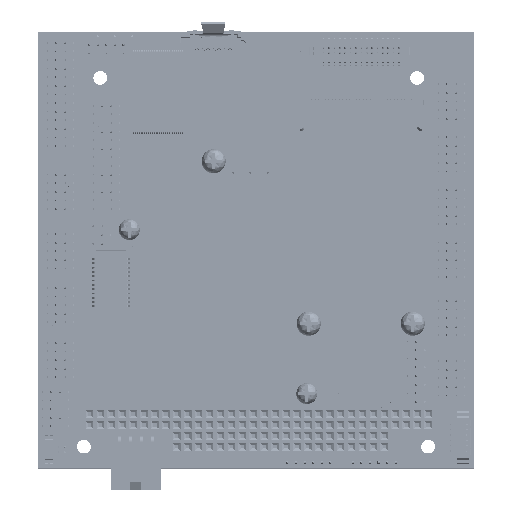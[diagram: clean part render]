
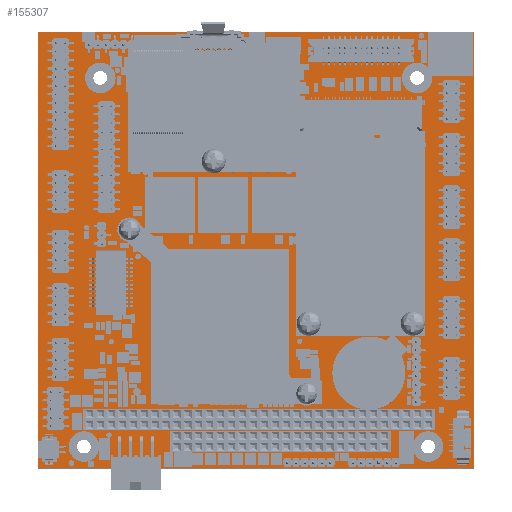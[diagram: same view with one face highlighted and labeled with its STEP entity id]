
A CAD part, top view. The second image highlights one B-rep face of the part: STEP entity #155307.
In plain terms, the highlighted planar face has unit normal (0, 0, 1).
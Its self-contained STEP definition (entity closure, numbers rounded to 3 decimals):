
#154868=CARTESIAN_POINT('',(10.795,5.08,2.217));
#154869=DIRECTION('',(0.,0.,1.));
#154870=DIRECTION('',(1.,0.,0.));
#154871=AXIS2_PLACEMENT_3D('',#154868,#154869,#154870);
#154873=CARTESIAN_POINT('',(10.795,5.08,2.217));
#154874=DIRECTION('',(0.,0.,1.));
#154875=DIRECTION('',(-1.,0.,0.));
#154876=AXIS2_PLACEMENT_3D('',#154873,#154874,#154875);
#154878=CARTESIAN_POINT('',(90.805,5.08,2.217));
#154879=DIRECTION('',(0.,0.,1.));
#154880=DIRECTION('',(1.,0.,0.));
#154881=AXIS2_PLACEMENT_3D('',#154878,#154879,#154880);
#154883=CARTESIAN_POINT('',(90.805,5.08,2.217));
#154884=DIRECTION('',(0.,0.,1.));
#154885=DIRECTION('',(-1.,0.,0.));
#154886=AXIS2_PLACEMENT_3D('',#154883,#154884,#154885);
#154888=CARTESIAN_POINT('',(14.605,90.805,2.217));
#154889=DIRECTION('',(0.,0.,1.));
#154890=DIRECTION('',(1.,0.,0.));
#154891=AXIS2_PLACEMENT_3D('',#154888,#154889,#154890);
#154893=CARTESIAN_POINT('',(14.605,90.805,2.217));
#154894=DIRECTION('',(0.,0.,1.));
#154895=DIRECTION('',(-1.,0.,0.));
#154896=AXIS2_PLACEMENT_3D('',#154893,#154894,#154895);
#154898=CARTESIAN_POINT('',(88.265,90.805,2.217));
#154899=DIRECTION('',(0.,0.,1.));
#154900=DIRECTION('',(1.,0.,0.));
#154901=AXIS2_PLACEMENT_3D('',#154898,#154899,#154900);
#154903=CARTESIAN_POINT('',(88.265,90.805,2.217));
#154904=DIRECTION('',(0.,0.,1.));
#154905=DIRECTION('',(-1.,0.,0.));
#154906=AXIS2_PLACEMENT_3D('',#154903,#154904,#154905);
#154908=CARTESIAN_POINT('',(21.34,55.5,2.217));
#154909=DIRECTION('',(0.,0.,1.));
#154910=DIRECTION('',(1.,0.,0.));
#154911=AXIS2_PLACEMENT_3D('',#154908,#154909,#154910);
#154913=CARTESIAN_POINT('',(21.34,55.5,2.217));
#154914=DIRECTION('',(0.,0.,1.));
#154915=DIRECTION('',(-1.,0.,0.));
#154916=AXIS2_PLACEMENT_3D('',#154913,#154914,#154915);
#154918=CARTESIAN_POINT('',(62.6,17.4,2.217));
#154919=DIRECTION('',(0.,0.,1.));
#154920=DIRECTION('',(1.,0.,0.));
#154921=AXIS2_PLACEMENT_3D('',#154918,#154919,#154920);
#154923=CARTESIAN_POINT('',(62.6,17.4,2.217));
#154924=DIRECTION('',(0.,0.,1.));
#154925=DIRECTION('',(-1.,0.,0.));
#154926=AXIS2_PLACEMENT_3D('',#154923,#154924,#154925);
#154928=CARTESIAN_POINT('',(40.94,71.41,2.217));
#154929=DIRECTION('',(0.,0.,1.));
#154930=DIRECTION('',(1.,0.,0.));
#154931=AXIS2_PLACEMENT_3D('',#154928,#154929,#154930);
#154933=CARTESIAN_POINT('',(40.94,71.41,2.217));
#154934=DIRECTION('',(0.,0.,1.));
#154935=DIRECTION('',(-1.,0.,0.));
#154936=AXIS2_PLACEMENT_3D('',#154933,#154934,#154935);
#154938=CARTESIAN_POINT('',(63.05,33.66,2.217));
#154939=DIRECTION('',(0.,0.,1.));
#154940=DIRECTION('',(1.,0.,0.));
#154941=AXIS2_PLACEMENT_3D('',#154938,#154939,#154940);
#154943=CARTESIAN_POINT('',(63.05,33.66,2.217));
#154944=DIRECTION('',(0.,0.,1.));
#154945=DIRECTION('',(-1.,0.,0.));
#154946=AXIS2_PLACEMENT_3D('',#154943,#154944,#154945);
#154948=CARTESIAN_POINT('',(87.25,33.66,2.217));
#154949=DIRECTION('',(0.,0.,1.));
#154950=DIRECTION('',(1.,0.,0.));
#154951=AXIS2_PLACEMENT_3D('',#154948,#154949,#154950);
#154953=CARTESIAN_POINT('',(87.25,33.66,2.217));
#154954=DIRECTION('',(0.,0.,1.));
#154955=DIRECTION('',(-1.,0.,0.));
#154956=AXIS2_PLACEMENT_3D('',#154953,#154954,#154955);
#154958=DIRECTION('',(1.,0.,0.));
#154959=VECTOR('',#154958,101.6);
#154960=CARTESIAN_POINT('',(0.,101.6,2.217));
#154961=LINE('',#154960,#154959);
#154962=DIRECTION('',(1.,0.,0.));
#154963=VECTOR('',#154962,101.6);
#154964=CARTESIAN_POINT('',(0.,0.,2.217));
#154965=LINE('',#154964,#154963);
#155038=DIRECTION('',(0.,-1.,0.));
#155039=VECTOR('',#155038,101.6);
#155040=CARTESIAN_POINT('',(101.6,101.6,2.217));
#155041=LINE('',#155040,#155039);
#155046=DIRECTION('',(0.,1.,0.));
#155047=VECTOR('',#155046,101.6);
#155048=CARTESIAN_POINT('',(0.,0.,2.217));
#155049=LINE('',#155048,#155047);
#155070=CARTESIAN_POINT('',(12.395,5.08,2.217));
#155071=CARTESIAN_POINT('',(9.195,5.08,2.217));
#155072=VERTEX_POINT('',#155070);
#155073=VERTEX_POINT('',#155071);
#155074=CARTESIAN_POINT('',(92.405,5.08,2.217));
#155075=CARTESIAN_POINT('',(89.205,5.08,2.217));
#155076=VERTEX_POINT('',#155074);
#155077=VERTEX_POINT('',#155075);
#155078=CARTESIAN_POINT('',(16.205,90.805,2.217));
#155079=CARTESIAN_POINT('',(13.005,90.805,2.217));
#155080=VERTEX_POINT('',#155078);
#155081=VERTEX_POINT('',#155079);
#155082=CARTESIAN_POINT('',(89.865,90.805,2.217));
#155083=CARTESIAN_POINT('',(86.665,90.805,2.217));
#155084=VERTEX_POINT('',#155082);
#155085=VERTEX_POINT('',#155083);
#155094=CARTESIAN_POINT('',(22.94,55.5,2.217));
#155095=CARTESIAN_POINT('',(19.74,55.5,2.217));
#155096=VERTEX_POINT('',#155094);
#155097=VERTEX_POINT('',#155095);
#155098=CARTESIAN_POINT('',(64.2,17.4,2.217));
#155099=CARTESIAN_POINT('',(61.,17.4,2.217));
#155100=VERTEX_POINT('',#155098);
#155101=VERTEX_POINT('',#155099);
#155114=CARTESIAN_POINT('',(42.69,71.41,2.217));
#155115=CARTESIAN_POINT('',(39.19,71.41,2.217));
#155116=VERTEX_POINT('',#155114);
#155117=VERTEX_POINT('',#155115);
#155118=CARTESIAN_POINT('',(64.8,33.66,2.217));
#155119=CARTESIAN_POINT('',(61.3,33.66,2.217));
#155120=VERTEX_POINT('',#155118);
#155121=VERTEX_POINT('',#155119);
#155122=CARTESIAN_POINT('',(89.,33.66,2.217));
#155123=CARTESIAN_POINT('',(85.5,33.66,2.217));
#155124=VERTEX_POINT('',#155122);
#155125=VERTEX_POINT('',#155123);
#155134=CARTESIAN_POINT('',(101.6,101.6,2.217));
#155135=VERTEX_POINT('',#155134);
#155136=CARTESIAN_POINT('',(101.6,0.,2.217));
#155137=VERTEX_POINT('',#155136);
#155138=CARTESIAN_POINT('',(0.,101.6,2.217));
#155139=VERTEX_POINT('',#155138);
#155140=CARTESIAN_POINT('',(0.,0.,2.217));
#155141=VERTEX_POINT('',#155140);
#155240=CARTESIAN_POINT('',(2.,-8.,2.217));
#155241=DIRECTION('',(0.,0.,1.));
#155242=DIRECTION('',(1.,0.,0.));
#155243=AXIS2_PLACEMENT_3D('',#155240,#155241,#155242);
#155244=PLANE('',#155243);
#155246=ORIENTED_EDGE('',*,*,#155245,.T.);
#155248=ORIENTED_EDGE('',*,*,#155247,.T.);
#155250=ORIENTED_EDGE('',*,*,#155249,.F.);
#155252=ORIENTED_EDGE('',*,*,#155251,.T.);
#155253=EDGE_LOOP('',(#155246,#155248,#155250,#155252));
#155254=FACE_OUTER_BOUND('',#155253,.F.);
#155256=ORIENTED_EDGE('',*,*,#155255,.T.);
#155258=ORIENTED_EDGE('',*,*,#155257,.T.);
#155259=EDGE_LOOP('',(#155256,#155258));
#155260=FACE_BOUND('',#155259,.F.);
#155262=ORIENTED_EDGE('',*,*,#155261,.T.);
#155264=ORIENTED_EDGE('',*,*,#155263,.T.);
#155265=EDGE_LOOP('',(#155262,#155264));
#155266=FACE_BOUND('',#155265,.F.);
#155268=ORIENTED_EDGE('',*,*,#155267,.T.);
#155270=ORIENTED_EDGE('',*,*,#155269,.T.);
#155271=EDGE_LOOP('',(#155268,#155270));
#155272=FACE_BOUND('',#155271,.F.);
#155274=ORIENTED_EDGE('',*,*,#155273,.T.);
#155276=ORIENTED_EDGE('',*,*,#155275,.T.);
#155277=EDGE_LOOP('',(#155274,#155276));
#155278=FACE_BOUND('',#155277,.F.);
#155280=ORIENTED_EDGE('',*,*,#155279,.T.);
#155282=ORIENTED_EDGE('',*,*,#155281,.T.);
#155283=EDGE_LOOP('',(#155280,#155282));
#155284=FACE_BOUND('',#155283,.F.);
#155286=ORIENTED_EDGE('',*,*,#155285,.T.);
#155288=ORIENTED_EDGE('',*,*,#155287,.T.);
#155289=EDGE_LOOP('',(#155286,#155288));
#155290=FACE_BOUND('',#155289,.F.);
#155292=ORIENTED_EDGE('',*,*,#155291,.T.);
#155294=ORIENTED_EDGE('',*,*,#155293,.T.);
#155295=EDGE_LOOP('',(#155292,#155294));
#155296=FACE_BOUND('',#155295,.F.);
#155298=ORIENTED_EDGE('',*,*,#155297,.T.);
#155300=ORIENTED_EDGE('',*,*,#155299,.T.);
#155301=EDGE_LOOP('',(#155298,#155300));
#155302=FACE_BOUND('',#155301,.F.);
#155303=ORIENTED_EDGE('',*,*,#155220,.T.);
#155304=ORIENTED_EDGE('',*,*,#155234,.T.);
#155305=EDGE_LOOP('',(#155303,#155304));
#155306=FACE_BOUND('',#155305,.F.);
#155307=ADVANCED_FACE('',(#155254,#155260,#155266,#155272,#155278,#155284,
#155290,#155296,#155302,#155306),#155244,.T.);
#154872=CIRCLE('',#154871,1.6);
#154877=CIRCLE('',#154876,1.6);
#154882=CIRCLE('',#154881,1.6);
#154887=CIRCLE('',#154886,1.6);
#154892=CIRCLE('',#154891,1.6);
#154897=CIRCLE('',#154896,1.6);
#154902=CIRCLE('',#154901,1.6);
#154907=CIRCLE('',#154906,1.6);
#154912=CIRCLE('',#154911,1.6);
#154917=CIRCLE('',#154916,1.6);
#154922=CIRCLE('',#154921,1.6);
#154927=CIRCLE('',#154926,1.6);
#154932=CIRCLE('',#154931,1.75);
#154937=CIRCLE('',#154936,1.75);
#154942=CIRCLE('',#154941,1.75);
#154947=CIRCLE('',#154946,1.75);
#154952=CIRCLE('',#154951,1.75);
#154957=CIRCLE('',#154956,1.75);
#155220=EDGE_CURVE('',#155072,#155073,#154872,.T.);
#155234=EDGE_CURVE('',#155073,#155072,#154877,.T.);
#155245=EDGE_CURVE('',#155139,#155135,#154961,.T.);
#155247=EDGE_CURVE('',#155135,#155137,#155041,.T.);
#155249=EDGE_CURVE('',#155141,#155137,#154965,.T.);
#155251=EDGE_CURVE('',#155141,#155139,#155049,.T.);
#155255=EDGE_CURVE('',#155076,#155077,#154882,.T.);
#155257=EDGE_CURVE('',#155077,#155076,#154887,.T.);
#155261=EDGE_CURVE('',#155080,#155081,#154892,.T.);
#155263=EDGE_CURVE('',#155081,#155080,#154897,.T.);
#155267=EDGE_CURVE('',#155084,#155085,#154902,.T.);
#155269=EDGE_CURVE('',#155085,#155084,#154907,.T.);
#155273=EDGE_CURVE('',#155096,#155097,#154912,.T.);
#155275=EDGE_CURVE('',#155097,#155096,#154917,.T.);
#155279=EDGE_CURVE('',#155100,#155101,#154922,.T.);
#155281=EDGE_CURVE('',#155101,#155100,#154927,.T.);
#155285=EDGE_CURVE('',#155116,#155117,#154932,.T.);
#155287=EDGE_CURVE('',#155117,#155116,#154937,.T.);
#155291=EDGE_CURVE('',#155120,#155121,#154942,.T.);
#155293=EDGE_CURVE('',#155121,#155120,#154947,.T.);
#155297=EDGE_CURVE('',#155124,#155125,#154952,.T.);
#155299=EDGE_CURVE('',#155125,#155124,#154957,.T.);
